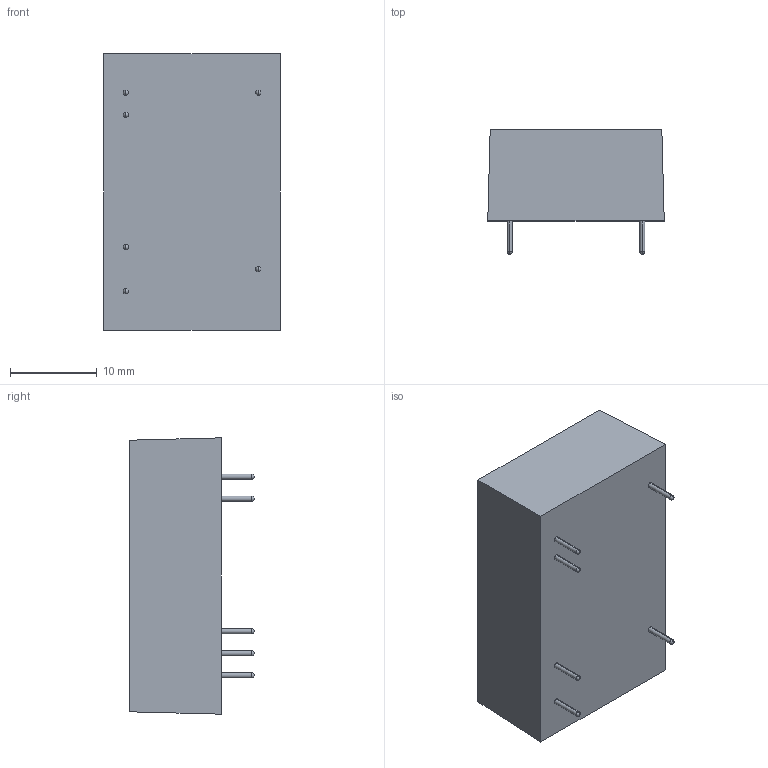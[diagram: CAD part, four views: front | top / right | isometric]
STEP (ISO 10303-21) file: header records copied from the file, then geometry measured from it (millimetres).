
FILE_DESCRIPTION (( 'STEP AP214' ), '1' );
FILE_NAME ('THM 6-B2-Single.STEP', '2024-05-31T05:27:24', ( '' ), ( '' ), 'SwSTEP 2.0', 'SolidWorks 2017', '' );
FILE_SCHEMA (( 'AUTOMOTIVE_DESIGN' ));
Length unit declared in the file: millimetre
Products named in the file (1): THM 6-B2-Single
Bounding box: 20.3 x 14.3 x 31.8 mm (x, y, z)
Volume: 6635.1 mm3; surface area: 2386.9 mm2
Topology: 1 solids, 1 shells, 30 faces, 84 edges, 50 vertices
Faces by surface type: sphere 12, cylinder 12, plane 6
Entity records: 1024 total; most frequent: DIRECTION 158, CARTESIAN_POINT 129, ORIENTED_EDGE 120, AXIS2_PLACEMENT_3D 67, EDGE_CURVE 60, VERTEX_POINT 38, CIRCLE 36, EDGE_LOOP 36
